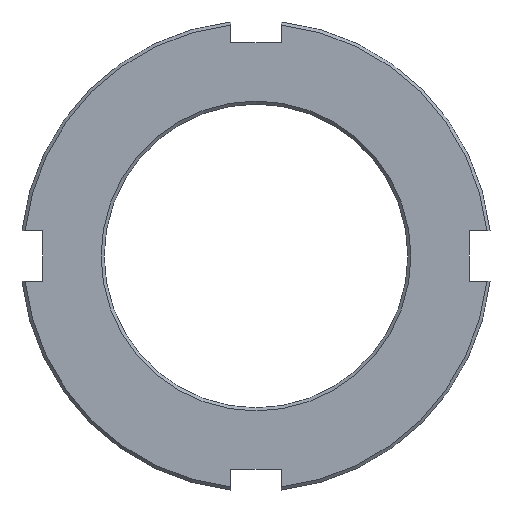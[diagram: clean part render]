
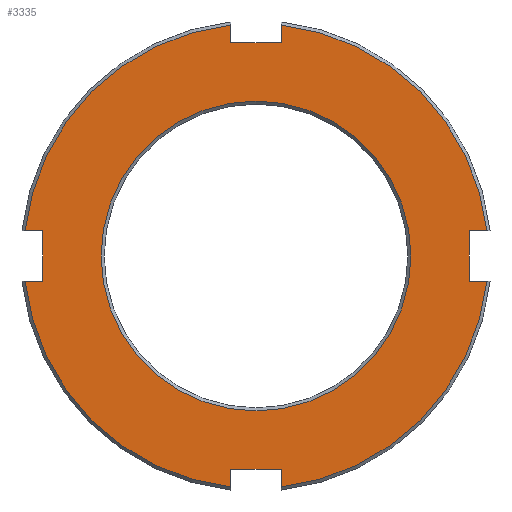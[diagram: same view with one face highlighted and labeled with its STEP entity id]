
A CAD part, front view. The second image highlights one B-rep face of the part: STEP entity #3335.
In plain terms, the highlighted planar face has unit normal (0, -1, 0).
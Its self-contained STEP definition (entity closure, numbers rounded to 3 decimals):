
#49=CIRCLE('',#3478,24.688);
#53=CIRCLE('',#3484,37.);
#54=CIRCLE('',#3485,37.);
#55=CIRCLE('',#3486,37.);
#56=CIRCLE('',#3487,37.);
#86=FACE_BOUND('',#542,.T.);
#179=PLANE('',#3483);
#345=FACE_OUTER_BOUND('',#541,.T.);
#541=EDGE_LOOP('',(#2963,#2964,#2965,#2966,#2967,#2968,#2969,#2970,#2971,
#2972,#2973,#2974,#2975,#2976,#2977,#2978));
#542=EDGE_LOOP('',(#2979));
#860=LINE('',#5746,#1190);
#861=LINE('',#5748,#1191);
#862=LINE('',#5750,#1192);
#863=LINE('',#5754,#1193);
#864=LINE('',#5756,#1194);
#865=LINE('',#5758,#1195);
#866=LINE('',#5762,#1196);
#867=LINE('',#5764,#1197);
#868=LINE('',#5766,#1198);
#869=LINE('',#5770,#1199);
#870=LINE('',#5772,#1200);
#871=LINE('',#5773,#1201);
#1190=VECTOR('',#4021,10.);
#1191=VECTOR('',#4022,10.);
#1192=VECTOR('',#4023,10.);
#1193=VECTOR('',#4026,10.);
#1194=VECTOR('',#4027,10.);
#1195=VECTOR('',#4028,10.);
#1196=VECTOR('',#4031,10.);
#1197=VECTOR('',#4032,10.);
#1198=VECTOR('',#4033,10.);
#1199=VECTOR('',#4036,10.);
#1200=VECTOR('',#4037,10.);
#1201=VECTOR('',#4038,10.);
#1618=VERTEX_POINT('',#5730);
#1622=VERTEX_POINT('',#5742);
#1623=VERTEX_POINT('',#5743);
#1624=VERTEX_POINT('',#5745);
#1625=VERTEX_POINT('',#5747);
#1626=VERTEX_POINT('',#5749);
#1627=VERTEX_POINT('',#5751);
#1628=VERTEX_POINT('',#5753);
#1629=VERTEX_POINT('',#5755);
#1630=VERTEX_POINT('',#5757);
#1631=VERTEX_POINT('',#5759);
#1632=VERTEX_POINT('',#5761);
#1633=VERTEX_POINT('',#5763);
#1634=VERTEX_POINT('',#5765);
#1635=VERTEX_POINT('',#5767);
#1636=VERTEX_POINT('',#5769);
#1637=VERTEX_POINT('',#5771);
#2075=EDGE_CURVE('',#1618,#1618,#49,.T.);
#2081=EDGE_CURVE('',#1622,#1623,#53,.T.);
#2082=EDGE_CURVE('',#1622,#1624,#860,.T.);
#2083=EDGE_CURVE('',#1624,#1625,#861,.T.);
#2084=EDGE_CURVE('',#1625,#1626,#862,.T.);
#2085=EDGE_CURVE('',#1627,#1626,#54,.T.);
#2086=EDGE_CURVE('',#1627,#1628,#863,.T.);
#2087=EDGE_CURVE('',#1628,#1629,#864,.T.);
#2088=EDGE_CURVE('',#1629,#1630,#865,.T.);
#2089=EDGE_CURVE('',#1631,#1630,#55,.T.);
#2090=EDGE_CURVE('',#1631,#1632,#866,.T.);
#2091=EDGE_CURVE('',#1632,#1633,#867,.T.);
#2092=EDGE_CURVE('',#1633,#1634,#868,.T.);
#2093=EDGE_CURVE('',#1635,#1634,#56,.T.);
#2094=EDGE_CURVE('',#1635,#1636,#869,.T.);
#2095=EDGE_CURVE('',#1636,#1637,#870,.T.);
#2096=EDGE_CURVE('',#1637,#1623,#871,.T.);
#2963=ORIENTED_EDGE('',*,*,#2081,.F.);
#2964=ORIENTED_EDGE('',*,*,#2082,.T.);
#2965=ORIENTED_EDGE('',*,*,#2083,.T.);
#2966=ORIENTED_EDGE('',*,*,#2084,.T.);
#2967=ORIENTED_EDGE('',*,*,#2085,.F.);
#2968=ORIENTED_EDGE('',*,*,#2086,.T.);
#2969=ORIENTED_EDGE('',*,*,#2087,.T.);
#2970=ORIENTED_EDGE('',*,*,#2088,.T.);
#2971=ORIENTED_EDGE('',*,*,#2089,.F.);
#2972=ORIENTED_EDGE('',*,*,#2090,.T.);
#2973=ORIENTED_EDGE('',*,*,#2091,.T.);
#2974=ORIENTED_EDGE('',*,*,#2092,.T.);
#2975=ORIENTED_EDGE('',*,*,#2093,.F.);
#2976=ORIENTED_EDGE('',*,*,#2094,.T.);
#2977=ORIENTED_EDGE('',*,*,#2095,.T.);
#2978=ORIENTED_EDGE('',*,*,#2096,.T.);
#2979=ORIENTED_EDGE('',*,*,#2075,.F.);
#3335=ADVANCED_FACE('',(#345,#86),#179,.F.);
#3478=AXIS2_PLACEMENT_3D('',#5731,#4005,#4006);
#3483=AXIS2_PLACEMENT_3D('',#5741,#4017,#4018);
#3484=AXIS2_PLACEMENT_3D('',#5744,#4019,#4020);
#3485=AXIS2_PLACEMENT_3D('',#5752,#4024,#4025);
#3486=AXIS2_PLACEMENT_3D('',#5760,#4029,#4030);
#3487=AXIS2_PLACEMENT_3D('',#5768,#4034,#4035);
#4005=DIRECTION('center_axis',(0.,-1.,0.));
#4006=DIRECTION('ref_axis',(1.,0.,0.));
#4017=DIRECTION('center_axis',(0.,1.,0.));
#4018=DIRECTION('ref_axis',(0.,0.,1.));
#4019=DIRECTION('center_axis',(0.,1.,0.));
#4020=DIRECTION('ref_axis',(0.994,0.,-0.107));
#4021=DIRECTION('',(-1.,0.,0.));
#4022=DIRECTION('',(0.,0.,1.));
#4023=DIRECTION('',(1.,0.,0.));
#4024=DIRECTION('center_axis',(0.,1.,0.));
#4025=DIRECTION('ref_axis',(0.107,0.,0.994));
#4026=DIRECTION('',(0.,0.,-1.));
#4027=DIRECTION('',(-1.,0.,0.));
#4028=DIRECTION('',(0.,0.,1.));
#4029=DIRECTION('center_axis',(0.,1.,0.));
#4030=DIRECTION('ref_axis',(-0.994,0.,0.107));
#4031=DIRECTION('',(1.,0.,0.));
#4032=DIRECTION('',(0.,0.,-1.));
#4033=DIRECTION('',(-1.,0.,0.));
#4034=DIRECTION('center_axis',(0.,1.,0.));
#4035=DIRECTION('ref_axis',(-0.107,0.,-0.994));
#4036=DIRECTION('',(0.,0.,1.));
#4037=DIRECTION('',(1.,0.,0.));
#4038=DIRECTION('',(0.,0.,-1.));
#5730=CARTESIAN_POINT('',(-24.688,0.,0.));
#5731=CARTESIAN_POINT('Origin',(0.,0.,0.));
#5741=CARTESIAN_POINT('Origin',(0.,0.,0.));
#5742=CARTESIAN_POINT('',(36.783,0.,-4.));
#5743=CARTESIAN_POINT('',(4.,0.,-36.783));
#5744=CARTESIAN_POINT('Origin',(0.,0.,0.));
#5745=CARTESIAN_POINT('',(34.,0.,-4.));
#5746=CARTESIAN_POINT('',(37.286,0.,-4.));
#5747=CARTESIAN_POINT('',(34.,0.,4.));
#5748=CARTESIAN_POINT('',(34.,0.,-4.));
#5749=CARTESIAN_POINT('',(36.783,0.,4.));
#5750=CARTESIAN_POINT('',(34.,0.,4.));
#5751=CARTESIAN_POINT('',(4.,0.,36.783));
#5752=CARTESIAN_POINT('Origin',(0.,0.,0.));
#5753=CARTESIAN_POINT('',(4.,0.,34.));
#5754=CARTESIAN_POINT('',(4.,0.,37.286));
#5755=CARTESIAN_POINT('',(-4.,0.,34.));
#5756=CARTESIAN_POINT('',(4.,0.,34.));
#5757=CARTESIAN_POINT('',(-4.,0.,36.783));
#5758=CARTESIAN_POINT('',(-4.,0.,34.));
#5759=CARTESIAN_POINT('',(-36.783,0.,4.));
#5760=CARTESIAN_POINT('Origin',(0.,0.,0.));
#5761=CARTESIAN_POINT('',(-34.,0.,4.));
#5762=CARTESIAN_POINT('',(-37.286,0.,4.));
#5763=CARTESIAN_POINT('',(-34.,0.,-4.));
#5764=CARTESIAN_POINT('',(-34.,0.,4.));
#5765=CARTESIAN_POINT('',(-36.783,0.,-4.));
#5766=CARTESIAN_POINT('',(-34.,0.,-4.));
#5767=CARTESIAN_POINT('',(-4.,0.,-36.783));
#5768=CARTESIAN_POINT('Origin',(0.,0.,0.));
#5769=CARTESIAN_POINT('',(-4.,0.,-34.));
#5770=CARTESIAN_POINT('',(-4.,0.,-37.286));
#5771=CARTESIAN_POINT('',(4.,0.,-34.));
#5772=CARTESIAN_POINT('',(-4.,0.,-34.));
#5773=CARTESIAN_POINT('',(4.,0.,-34.));
